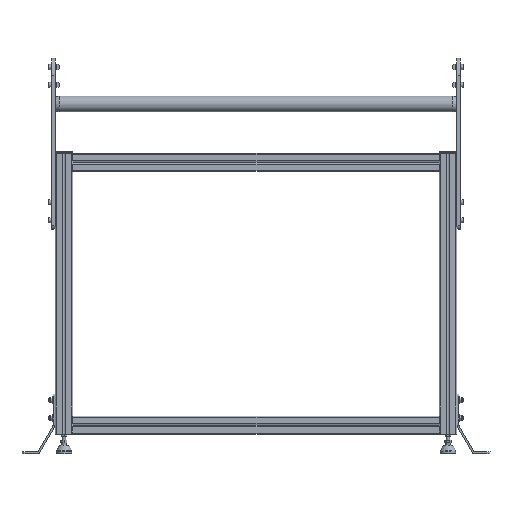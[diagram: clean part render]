
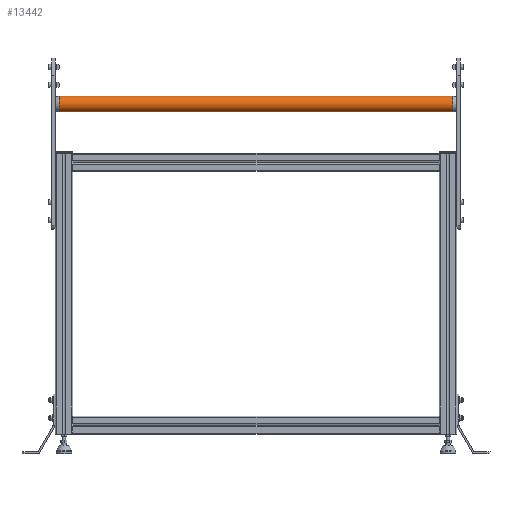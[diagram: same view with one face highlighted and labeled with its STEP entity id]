
A CAD part, top view. The second image highlights one B-rep face of the part: STEP entity #13442.
In plain terms, the highlighted cylindrical face has radius 20 mm (diameter 40 mm), a full revolution.
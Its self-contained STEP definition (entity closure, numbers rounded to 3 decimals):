
#278 = EDGE_LOOP ( 'NONE', ( #9179 ) ) ;
#552 = CIRCLE ( 'NONE', #3231, 20. ) ;
#555 = AXIS2_PLACEMENT_3D ( 'NONE', #12203, #2989, #8891 ) ;
#1482 = AXIS2_PLACEMENT_3D ( 'NONE', #3045, #12305, #6578 ) ;
#2989 = DIRECTION ( 'NONE',  ( -1., 0., 0. ) ) ;
#3045 = CARTESIAN_POINT ( 'NONE',  ( -513., 0., 0. ) ) ;
#3231 = AXIS2_PLACEMENT_3D ( 'NONE', #9472, #4818, #7139 ) ;
#3980 = CIRCLE ( 'NONE', #555, 20. ) ;
#4818 = DIRECTION ( 'NONE',  ( -1., 0., 0. ) ) ;
#5714 = CARTESIAN_POINT ( 'NONE',  ( -494., 0., 20. ) ) ;
#6578 = DIRECTION ( 'NONE',  ( 0., 0., 1. ) ) ;
#7139 = DIRECTION ( 'NONE',  ( 0., 0., 1. ) ) ;
#7675 = EDGE_LOOP ( 'NONE', ( #11074 ) ) ;
#7700 = FACE_OUTER_BOUND ( 'NONE', #7675, .T. ) ;
#8776 = FACE_OUTER_BOUND ( 'NONE', #278, .T. ) ;
#8891 = DIRECTION ( 'NONE',  ( 0., 0., 1. ) ) ;
#9019 = VERTEX_POINT ( 'NONE', #9173 ) ;
#9173 = CARTESIAN_POINT ( 'NONE',  ( 494., 0., 20. ) ) ;
#9179 = ORIENTED_EDGE ( 'NONE', *, *, #14950, .F. ) ;
#9472 = CARTESIAN_POINT ( 'NONE',  ( -494., 0., 0. ) ) ;
#11074 = ORIENTED_EDGE ( 'NONE', *, *, #11429, .T. ) ;
#11429 = EDGE_CURVE ( 'NONE', #9019, #9019, #3980, .T. ) ;
#12203 = CARTESIAN_POINT ( 'NONE',  ( 494., 0., 0. ) ) ;
#12305 = DIRECTION ( 'NONE',  ( -1., 0., 0. ) ) ;
#13398 = CYLINDRICAL_SURFACE ( 'NONE', #1482, 20. ) ;
#13442 = ADVANCED_FACE ( 'NONE', ( #8776, #7700 ), #13398, .T. ) ;
#13509 = VERTEX_POINT ( 'NONE', #5714 ) ;
#14950 = EDGE_CURVE ( 'NONE', #13509, #13509, #552, .T. ) ;
